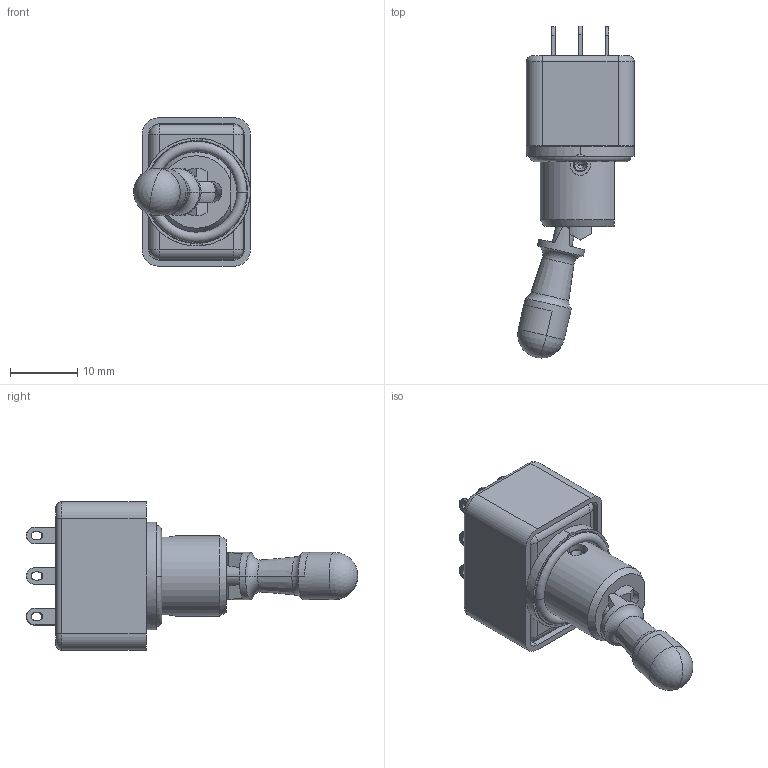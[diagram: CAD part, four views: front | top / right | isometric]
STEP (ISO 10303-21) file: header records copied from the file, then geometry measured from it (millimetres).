
FILE_DESCRIPTION((''),'2;1');
FILE_NAME('12156X778_2V','2010-11-02T',('francis'),(''),'PRO/ENGINEER BY PARAMETRIC TECHNOLOGY CORPORATION, 2009440','PRO/ENGINEER BY PARAMETRIC TECHNOLOGY CORPORATION, 2009440','');
FILE_SCHEMA(('CONFIG_CONTROL_DESIGN'));
Length unit declared in the file: millimetre
Products named in the file (1): 12156X778_2V
Bounding box: 17.28 x 49.23 x 22 mm (x, y, z)
Volume: 3093.7 mm3; surface area: 6785.5 mm2
Topology: 3 solids, 3 shells, 854 faces, 2343 edges, 1525 vertices
Faces by surface type: plane 600, cylinder 191, cone 31, torus 16, sphere 16
Entity records: 27609 total; most frequent: CARTESIAN_POINT 5597, ORIENTED_EDGE 4674, DIRECTION 4432, EDGE_CURVE 2337, VECTOR 1778, LINE 1778, VERTEX_POINT 1525, AXIS2_PLACEMENT_3D 1327
